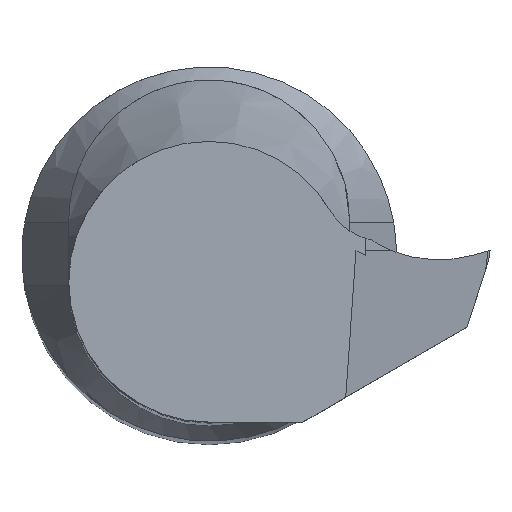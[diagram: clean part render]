
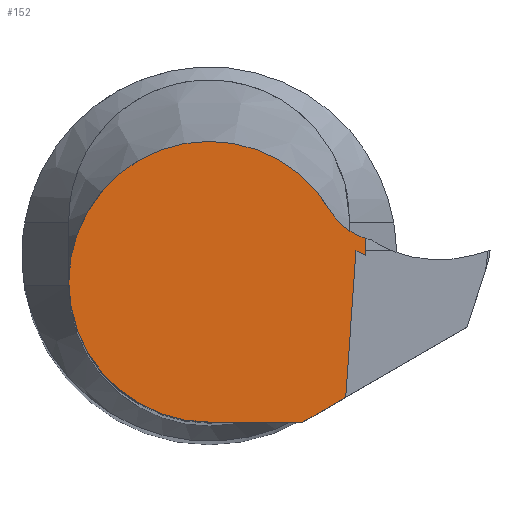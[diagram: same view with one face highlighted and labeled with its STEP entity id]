
A CAD part, top view. The second image highlights one B-rep face of the part: STEP entity #152.
In plain terms, the highlighted planar face has unit normal (0, 0, 1).
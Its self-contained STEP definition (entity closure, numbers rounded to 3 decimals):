
#113=PLANE('',#809);
#152=ADVANCED_FACE('',(#204),#113,.F.);
#204=FACE_OUTER_BOUND('',#250,.T.);
#250=EDGE_LOOP('',(#478,#479,#480,#481,#482,#483,#484));
#302=LINE('',#1182,#362);
#303=LINE('',#1186,#363);
#304=LINE('',#1188,#364);
#305=LINE('',#1190,#365);
#306=LINE('',#1192,#366);
#362=VECTOR('',#952,1.);
#363=VECTOR('',#957,1.);
#364=VECTOR('',#958,1.);
#365=VECTOR('',#959,1.);
#366=VECTOR('',#960,1.);
#478=ORIENTED_EDGE('',*,*,#691,.T.);
#479=ORIENTED_EDGE('',*,*,#703,.F.);
#480=ORIENTED_EDGE('',*,*,#704,.T.);
#481=ORIENTED_EDGE('',*,*,#705,.T.);
#482=ORIENTED_EDGE('',*,*,#706,.F.);
#483=ORIENTED_EDGE('',*,*,#707,.F.);
#484=ORIENTED_EDGE('',*,*,#702,.T.);
#617=VERTEX_POINT('',#1160);
#618=VERTEX_POINT('',#1162);
#624=VERTEX_POINT('',#1179);
#626=VERTEX_POINT('',#1185);
#627=VERTEX_POINT('',#1187);
#628=VERTEX_POINT('',#1189);
#629=VERTEX_POINT('',#1191);
#691=EDGE_CURVE('',#618,#617,#757,.T.);
#702=EDGE_CURVE('',#624,#618,#302,.T.);
#703=EDGE_CURVE('',#626,#617,#759,.T.);
#704=EDGE_CURVE('',#626,#627,#303,.T.);
#705=EDGE_CURVE('',#627,#628,#304,.T.);
#706=EDGE_CURVE('',#629,#628,#305,.T.);
#707=EDGE_CURVE('',#624,#629,#306,.T.);
#757=CIRCLE('',#800,2.);
#759=CIRCLE('',#808,4.5);
#800=AXIS2_PLACEMENT_3D('',#1161,#932,#933);
#808=AXIS2_PLACEMENT_3D('',#1184,#955,#956);
#809=AXIS2_PLACEMENT_3D('',#1193,#961,#962);
#932=DIRECTION('',(0.,0.,-1.));
#933=DIRECTION('',(1.,0.,0.));
#952=DIRECTION('',(0.,1.,0.));
#955=DIRECTION('',(0.,0.,-1.));
#956=DIRECTION('',(1.,0.,0.));
#957=DIRECTION('',(1.,0.,0.));
#958=DIRECTION('',(0.866,0.5,0.));
#959=DIRECTION('',(-0.07,-0.998,0.));
#960=DIRECTION('',(-0.895,0.447,0.));
#961=DIRECTION('',(0.,0.,-1.));
#962=DIRECTION('',(-1.,0.,0.));
#1160=CARTESIAN_POINT('',(3.877,1.285,19.072));
#1161=CARTESIAN_POINT('',(5.6,2.3,19.072));
#1162=CARTESIAN_POINT('',(5.,0.392,19.072));
#1179=CARTESIAN_POINT('',(5.,-0.147,19.072));
#1182=CARTESIAN_POINT('',(5.,-8.3,19.072));
#1184=CARTESIAN_POINT('',(0.,-1.,19.072));
#1185=CARTESIAN_POINT('',(0.,-5.5,19.072));
#1186=CARTESIAN_POINT('',(3.,-5.5,19.072));
#1187=CARTESIAN_POINT('',(3.,-5.5,19.072));
#1188=CARTESIAN_POINT('',(9.3,-1.863,19.072));
#1189=CARTESIAN_POINT('',(4.375,-4.706,19.072));
#1190=CARTESIAN_POINT('',(4.612,-1.323,19.072));
#1191=CARTESIAN_POINT('',(4.705,0.,19.072));
#1192=CARTESIAN_POINT('',(1.338,1.68,19.072));
#1193=CARTESIAN_POINT('',(0.,-1.,19.072));
